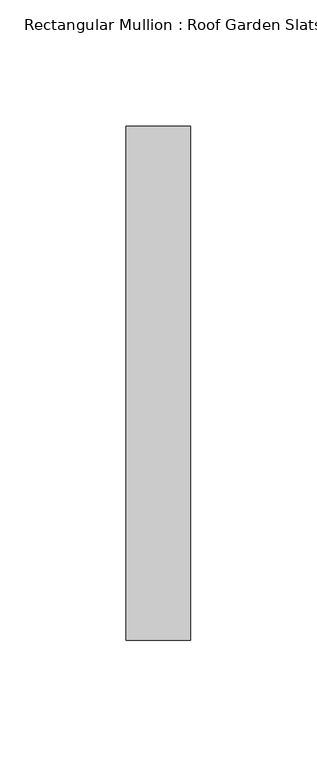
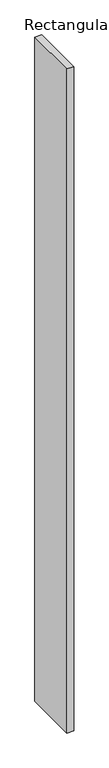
"""IFC4 building model written with IfcOpenShell, lengths in millimetres: member geometry, Rectangular Mullion : Roof Garden Slats."""

import ifcopenshell
import ifcopenshell.guid

model = None  # the IFC model being written
_history = None  # IfcOwnerHistory: only IFC2X3 demands one
_inside = {}  # id of a spatial element -> (the spatial element, [elements in it])
_under = {}  # id of a project, library or spatial element -> (it, [spatial elements below it])
_declared = {}  # id of a project -> (the project, [libraries it declares])
_typed = {}  # id of a type object -> (the type object, [elements of that type])
_made_of = {}  # id of a material, layer set ... -> (it, [elements and type objects made of it])


def new_model(schema):
    """Start an empty IFC model of exactly this schema.

    Asked for "IFC4X3", IfcOpenShell would pick the latest addendum, in which some entities
    have other attributes; the version numbers below select the first issue.
    IFC2X3 requires an IfcOwnerHistory on every rooted entity: one is made here for all.
    """
    global model, _history
    if schema == "IFC4X3":
        model = ifcopenshell.file(schema_version=(4, 3, 0, 0))
    else:
        model = ifcopenshell.file(schema=schema)
    _inside.clear()
    _under.clear()
    _declared.clear()
    _typed.clear()
    _made_of.clear()
    _history = None
    if model.schema == "IFC2X3":
        org = make("IfcOrganization", Name="unknown")
        user = make(
            "IfcPersonAndOrganization",
            ThePerson=make("IfcPerson", FamilyName="unknown"),
            TheOrganization=org,
        )
        app = make(
            "IfcApplication",
            ApplicationDeveloper=org,
            Version="unknown",
            ApplicationFullName="unknown",
            ApplicationIdentifier="unknown",
        )
        _history = make(
            "IfcOwnerHistory",
            OwningUser=user,
            OwningApplication=app,
            ChangeAction="ADDED",
            CreationDate=0,
        )
    return model


def make(cls, **values):
    """One entity of the class cls with the attributes given. An attribute that is None is left unset."""
    return model.create_entity(
        cls, **{name: value for name, value in values.items() if value is not None}
    )


def rooted(cls, **values):
    """An entity with a GlobalId (a new one), such as an element, a storey or a relation."""
    return make(cls, GlobalId=ifcopenshell.guid.new(), OwnerHistory=_history, **values)


def si_unit(unit_type, name, prefix=None):
    """IfcSIUnit, for example si_unit("LENGTHUNIT", "METRE", prefix="MILLI")."""
    return make("IfcSIUnit", UnitType=unit_type, Prefix=prefix, Name=name)


def assignment(units):
    """IfcUnitAssignment: the units of a project."""
    return None if units is None else make("IfcUnitAssignment", Units=units)


def point(xyz):
    """IfcCartesianPoint."""
    return None if xyz is None else make("IfcCartesianPoint", Coordinates=xyz)


def direction(xyz):
    """IfcDirection."""
    return None if xyz is None else make("IfcDirection", DirectionRatios=xyz)


def frame(location, z_axis=None, x_axis=None):
    """IfcAxis2Placement3D, a coordinate frame: its origin and axes. An axis left out is left unset."""
    return make(
        "IfcAxis2Placement3D",
        Location=point(location),
        Axis=direction(z_axis),
        RefDirection=direction(x_axis),
    )


def origin():
    """The frame at (0, 0, 0) with its axes left unset."""
    return frame((0.0, 0.0, 0.0))


def place(relative_to, where):
    """IfcLocalPlacement: puts the frame where relative to a parent placement (None: the world)."""
    return make(
        "IfcLocalPlacement", PlacementRelTo=relative_to, RelativePlacement=where
    )


def context(
    kind, dimensions, precision=None, world=None, true_north=None, identifier=None
):
    """IfcGeometricRepresentationContext, for example the 3D "Model" context."""
    return make(
        "IfcGeometricRepresentationContext",
        ContextIdentifier=identifier,
        ContextType=kind,
        CoordinateSpaceDimension=dimensions,
        Precision=precision,
        WorldCoordinateSystem=world,
        TrueNorth=true_north,
    )


def project(units=None, contexts=None):
    """IfcProject with its units and contexts."""
    return rooted(
        "IfcProject",
        Name="project",
        RepresentationContexts=contexts,
        UnitsInContext=assignment(units),
    )


def spatial(cls, under=None, at=None, **own):
    """A site, building, storey or space (cls), placed at a placement, below another one or the project."""
    s = rooted(cls, ObjectPlacement=at, **own)
    if under is not None:
        _under.setdefault(under.id(), (under, []))[1].append(s)
    return s


def polyline(points):
    """IfcPolyline through the points."""
    return make("IfcPolyline", Points=[point(p) for p in points])


def outline(outer, holes=None, kind="AREA"):
    """IfcArbitraryClosedProfileDef: a profile drawn as a closed curve; with holes, ...WithVoids."""
    if holes is None:
        return make("IfcArbitraryClosedProfileDef", ProfileType=kind, OuterCurve=outer)
    return make(
        "IfcArbitraryProfileDefWithVoids",
        ProfileType=kind,
        OuterCurve=outer,
        InnerCurves=holes,
    )


def extrude(swept, where, along, depth):
    """IfcExtrudedAreaSolid: the profile swept, set in the frame where, extruded along a direction by depth."""
    return make(
        "IfcExtrudedAreaSolid",
        SweptArea=swept,
        Position=where,
        ExtrudedDirection=direction(along),
        Depth=depth,
    )


def shape(context_of_items, identifier, shape_type, items):
    """IfcShapeRepresentation: the items that make up one representation, for example the "Body"."""
    return make(
        "IfcShapeRepresentation",
        ContextOfItems=context_of_items,
        RepresentationIdentifier=identifier,
        RepresentationType=shape_type,
        Items=items,
    )


def source(mapping_origin, context_of_items, identifier, shape_type, items):
    """IfcRepresentationMap: a shape defined once, which mapped items show again and again."""
    return make(
        "IfcRepresentationMap",
        MappingOrigin=mapping_origin,
        MappedRepresentation=shape(context_of_items, identifier, shape_type, items),
    )


def transform(
    local_origin,
    x_axis=None,
    y_axis=None,
    z_axis=None,
    scale=None,
    scale2=None,
    scale3=None,
    uniform=True,
):
    """IfcCartesianTransformationOperator3D, or its non-uniform kind. x_axis, y_axis, z_axis: its Axis1, 2, 3."""
    if uniform:
        return make(
            "IfcCartesianTransformationOperator3D",
            Axis1=direction(x_axis),
            Axis2=direction(y_axis),
            LocalOrigin=point(local_origin),
            Scale=scale,
            Axis3=direction(z_axis),
        )
    return make(
        "IfcCartesianTransformationOperator3DnonUniform",
        Axis1=direction(x_axis),
        Axis2=direction(y_axis),
        LocalOrigin=point(local_origin),
        Scale=scale,
        Axis3=direction(z_axis),
        Scale2=scale2,
        Scale3=scale3,
    )


def mapped(mapping_source, mapping_target):
    """IfcMappedItem: shows the shape of a source again, moved by a transform."""
    return make(
        "IfcMappedItem", MappingSource=mapping_source, MappingTarget=mapping_target
    )


def made_of(thing, what):
    """Note that an element or type object is made of a material, layer set ...; save() writes the relation."""
    if what is not None:
        _made_of.setdefault(what.id(), (what, []))[1].append(thing)
    return thing


def element(
    cls,
    number,
    at=None,
    inside=None,
    cuts=None,
    type_object=None,
    material=None,
    context=None,
    identifier="Body",
    shape_type=None,
    held_by="IfcProductDefinitionShape",
    body=None,
    shapes=None,
    **own,
):
    """One element of the class cls, such as IfcWall. Its Tag is "e" and its number.

    at: its placement. inside: the storey or other place that contains it. cuts: it is an
    opening in that element (IfcRelVoidsElement). A single representation is given by context,
    identifier, shape_type and body (its items); several are given by shapes. held_by: the class
    of the entity that holds the representations. save() writes the other relations.
    """
    e = rooted(cls, Tag="e%d" % number, ObjectPlacement=at, **own)
    if body is not None:
        shapes = [shape(context, identifier, shape_type, body)]
    if shapes is not None:
        e.Representation = make(held_by, Representations=shapes)
    if inside is not None:
        _inside.setdefault(inside.id(), (inside, []))[1].append(e)
    if cuts is not None:
        rooted(
            "IfcRelVoidsElement", RelatingBuildingElement=cuts, RelatedOpeningElement=e
        )
    if type_object is not None:
        _typed.setdefault(type_object.id(), (type_object, []))[1].append(e)
    return made_of(e, material)


def aggregate(whole, parts):
    """IfcRelAggregates: a whole, such as a stair, and the parts it consists of."""
    return rooted("IfcRelAggregates", RelatingObject=whole, RelatedObjects=parts)


def save(model, path):
    """Write the relations noted so far, then the file.

    IfcRelAggregates (storeys below a building ...), IfcRelContainedInSpatialStructure (elements
    in a storey), IfcRelDefinesByType, IfcRelAssociatesMaterial and IfcRelDeclares: one each for
    every whole, place, type object, material and project.
    """
    for whole, parts in _under.values():
        aggregate(whole, parts)
    for where, things in _inside.values():
        rooted(
            "IfcRelContainedInSpatialStructure",
            RelatedElements=things,
            RelatingStructure=where,
        )
    for kind, things in _typed.values():
        rooted("IfcRelDefinesByType", RelatedObjects=things, RelatingType=kind)
    for what, things in _made_of.values():
        rooted("IfcRelAssociatesMaterial", RelatedObjects=things, RelatingMaterial=what)
    for by, libraries in _declared.values():
        rooted("IfcRelDeclares", RelatingContext=by, RelatedDefinitions=libraries)
    model.write(path)


def rectangular_mullion_roof_garden_slats_762fb391(model_context):
    return source(origin(), model_context, "Body", "SweptSolid", [
        extrude(outline(polyline([(0.0, 139.7), (0.0, -63.5), (-25.4, -63.5), (-25.4, 139.7), (0.0, 139.7)])), frame((0.0, 0.0, -2582.2638468), z_axis=(0.0, 0.0, 1.0), x_axis=(1.0, 0.0, 0.0)), (0.0, 0.0, 1.0), 2582.2638468),
    ])


if __name__ == "__main__":
    model = new_model("IFC4")
    model_context = context("Model", 3, world=origin())
    ifc_project = project(units=[si_unit("LENGTHUNIT", "METRE", prefix="MILLI")], contexts=[model_context])
    site = spatial("IfcSite", under=ifc_project)
    building = spatial("IfcBuilding", under=site)
    placement = place(None, origin())
    rectangular_mullion_roof_garden_slats_shape = rectangular_mullion_roof_garden_slats_762fb391(model_context)
    element("IfcMember", 1, ObjectType="Rectangular Mullion : Roof Garden Slats", at=placement, inside=building, context=model_context, shape_type="MappedRepresentation", body=[
        mapped(rectangular_mullion_roof_garden_slats_shape, transform((0.0, 0.0, 0.0), x_axis=(1.0, 0.0, 0.0), y_axis=(0.0, 1.0, 0.0), z_axis=(0.0, 0.0, 1.0))),
    ])
    save(model, "model.ifc")
